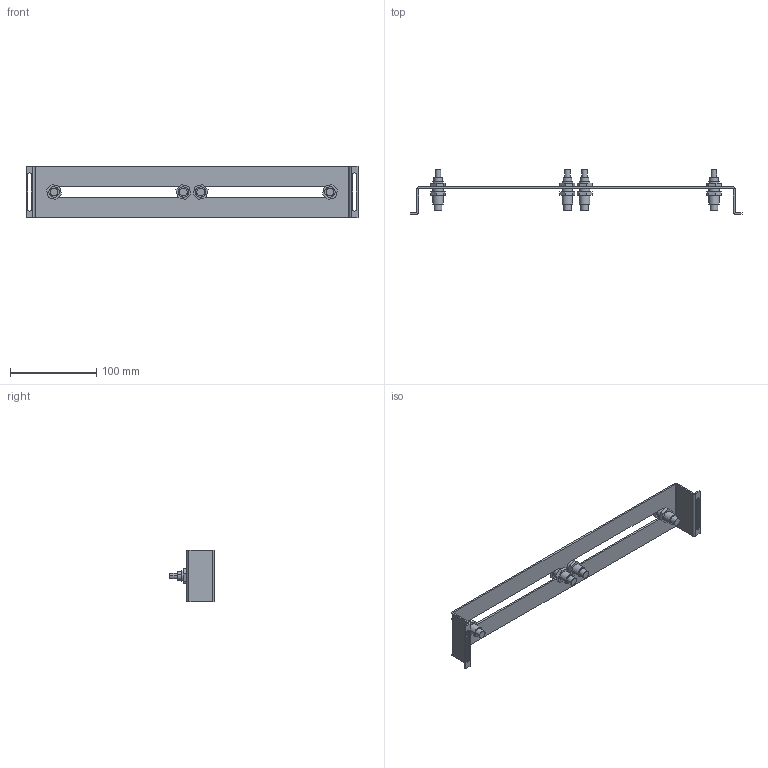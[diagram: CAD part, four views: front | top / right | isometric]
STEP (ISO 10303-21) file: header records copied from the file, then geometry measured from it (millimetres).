
FILE_DESCRIPTION (( 'STEP AP203' ), '1' );
FILE_NAME ('assembly.step', '2026-07-05T19:14:36', ( '1' ), ( '' ), 'SwSTEP 2.0', 'SolidWorks 2024', '' );
FILE_SCHEMA (( 'CONFIG_CONTROL_DESIGN' ));
Length unit declared in the file: millimetre
Products named in the file (3): assembly; 感应支架; e2e-x8md1-z
Assembly tree (5 placements, depth 2):
  assembly
    感应支架
    e2e-x8md1-z  x4
Bounding box: 385 x 52 x 60 mm (x, y, z)
Volume: 63612.6 mm3; surface area: 57090.2 mm2
Topology: 5 solids, 5 shells, 188 faces, 418 edges, 268 vertices
Faces by surface type: plane 122, cylinder 66
Entity records: 2877 total; most frequent: DIRECTION 456, CARTESIAN_POINT 423, ORIENTED_EDGE 404, EDGE_CURVE 202, AXIS2_PLACEMENT_3D 157, VECTOR 142, LINE 142, VERTEX_POINT 124
